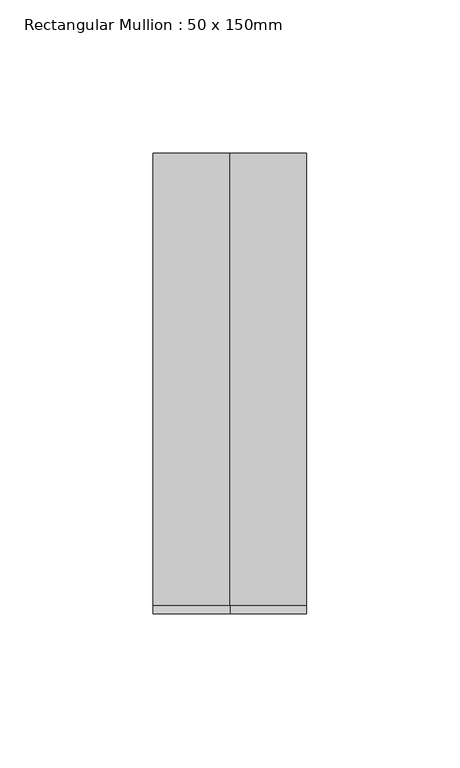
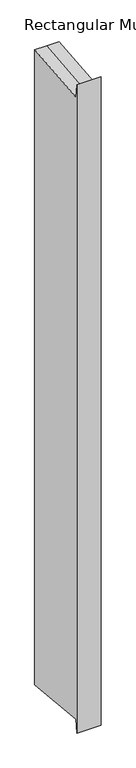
"""IFC4 building model written with IfcOpenShell, lengths in millimetres: member geometry, Rectangular Mullion : 50 x 150mm."""

from ifc_helpers import new_model, si_unit, origin, place, context, project, spatial, faceted_brep, source, transform, mapped, element, save


def rectangular_mullion_50_x_150mm_b609ef99(model_context):
    return source(origin(), model_context, "Body", "Brep", [
        faceted_brep([(-25.0, 75.0, 7.003801), (0.0, 75.0, 7.003801), (25.0, 75.0, 7.003801), (25.0, 75.0, -1373.1006994), (0.0, 75.0, -1373.1006994), (-25.0, 75.0, -1373.1006994), (-25.0, -75.0, 21.4499324), (-25.0, -72.3032509, -6.9724867), (-25.0, -72.3032509, -1359.1244117), (-25.0, -75.0, -1387.5468307), (25.0, -75.0, 21.4499324), (0.0, -75.0, 21.4499324), (0.0, -75.0, -1387.5468307), (25.0, -75.0, -1387.5468307), (25.0, -72.3032509, -6.9724867), (25.0, -72.3032509, -1359.1244117), (0.0, -72.3032509, -6.9724867), (0.0, -72.3032509, -1359.1244117)], [[[0, 1, 2, 3, 4, 5]], [[6, 7, 0, 5, 8, 9]], [[10, 11, 6, 9, 12, 13]], [[2, 14, 10, 13, 15, 3]], [[2, 1, 16, 14]], [[1, 0, 7, 16]], [[7, 6, 11, 16]], [[11, 10, 14, 16]], [[3, 15, 17, 4]], [[15, 13, 12, 17]], [[12, 9, 8, 17]], [[8, 5, 4, 17]]]),
    ])


if __name__ == "__main__":
    model = new_model("IFC4")
    model_context = context("Model", 3, world=origin())
    ifc_project = project(units=[si_unit("LENGTHUNIT", "METRE", prefix="MILLI")], contexts=[model_context])
    site = spatial("IfcSite", under=ifc_project)
    building = spatial("IfcBuilding", under=site)
    placement = place(None, origin())
    rectangular_mullion_50_x_150mm_shape = rectangular_mullion_50_x_150mm_b609ef99(model_context)
    element("IfcMember", 1, ObjectType="Rectangular Mullion : 50 x 150mm", at=placement, inside=building, context=model_context, shape_type="MappedRepresentation", body=[
        mapped(rectangular_mullion_50_x_150mm_shape, transform((0.0, 0.0, 0.0), x_axis=(1.0, 0.0, 0.0), y_axis=(0.0, 1.0, 0.0), z_axis=(0.0, 0.0, 1.0))),
    ])
    save(model, "model.ifc")
